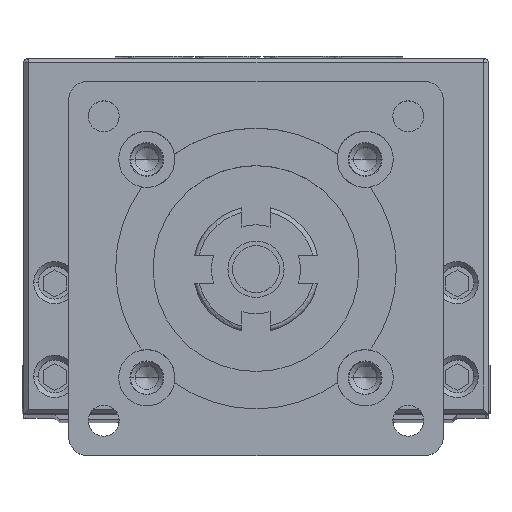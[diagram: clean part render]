
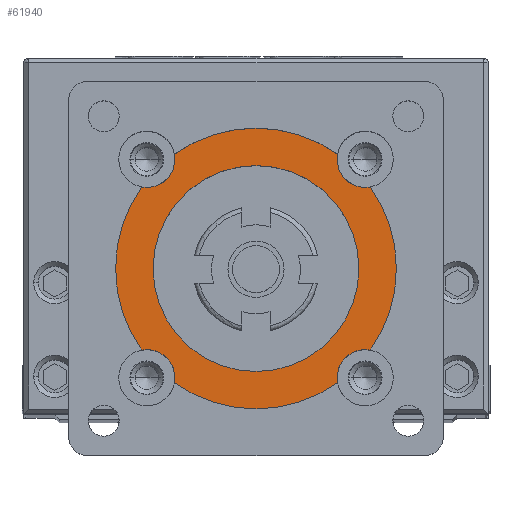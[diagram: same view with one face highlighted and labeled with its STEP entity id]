
A CAD part, top view. The second image highlights one B-rep face of the part: STEP entity #61940.
In plain terms, the highlighted planar face has unit normal (0, 0, 1).
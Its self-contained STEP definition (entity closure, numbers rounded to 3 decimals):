
#356 = DIRECTION ( 'NONE',  ( 1., 0., 0. ) ) ;
#691 = AXIS2_PLACEMENT_3D ( 'NONE', #15921, #27473, #20450 ) ;
#951 = FACE_OUTER_BOUND ( 'NONE', #11472, .T. ) ;
#1281 = AXIS2_PLACEMENT_3D ( 'NONE', #17163, #23790, #3087 ) ;
#1996 = AXIS2_PLACEMENT_3D ( 'NONE', #46358, #78438, #28631 ) ;
#2280 = AXIS2_PLACEMENT_3D ( 'NONE', #38774, #37946, #64257 ) ;
#2920 = ORIENTED_EDGE ( 'NONE', *, *, #71915, .F. ) ;
#3087 = DIRECTION ( 'NONE',  ( 1., 0., 0. ) ) ;
#4644 = CIRCLE ( 'NONE', #1996, 15. ) ;
#4823 = DIRECTION ( 'NONE',  ( 0., 0., 1. ) ) ;
#5115 = ORIENTED_EDGE ( 'NONE', *, *, #67935, .F. ) ;
#5198 = ORIENTED_EDGE ( 'NONE', *, *, #8246, .F. ) ;
#5347 = CARTESIAN_POINT ( 'NONE',  ( 11.667, -11.667, 5.5 ) ) ;
#5464 = ORIENTED_EDGE ( 'NONE', *, *, #18652, .F. ) ;
#6044 = ORIENTED_EDGE ( 'NONE', *, *, #11975, .T. ) ;
#6551 = DIRECTION ( 'NONE',  ( 0., 0., 1. ) ) ;
#7469 = CIRCLE ( 'NONE', #46993, 3. ) ;
#8246 = EDGE_CURVE ( 'NONE', #53247, #18965, #81499, .T. ) ;
#9300 = VERTEX_POINT ( 'NONE', #46508 ) ;
#10398 = VERTEX_POINT ( 'NONE', #26089 ) ;
#10543 = CARTESIAN_POINT ( 'NONE',  ( 0., 0., 5.5 ) ) ;
#11438 = PLANE ( 'NONE',  #58619 ) ;
#11472 = EDGE_LOOP ( 'NONE', ( #42892, #26475, #49056, #73115, #2920, #79901, #26339, #19982, #6044, #69314, #5198, #25028, #5115 ) ) ;
#11975 = EDGE_CURVE ( 'NONE', #73031, #29648, #48564, .T. ) ;
#14400 = CARTESIAN_POINT ( 'NONE',  ( -8.716, -12.208, 5.5 ) ) ;
#14553 = CARTESIAN_POINT ( 'NONE',  ( 11., 0., 5.5 ) ) ;
#15663 = EDGE_CURVE ( 'NONE', #31319, #23044, #24530, .T. ) ;
#15921 = CARTESIAN_POINT ( 'NONE',  ( 11.667, 11.667, 5.5 ) ) ;
#16741 = CARTESIAN_POINT ( 'NONE',  ( 8.716, -12.208, 5.5 ) ) ;
#17163 = CARTESIAN_POINT ( 'NONE',  ( 11.667, 11.667, 5.5 ) ) ;
#17513 = EDGE_CURVE ( 'NONE', #18965, #29648, #7469, .T. ) ;
#18401 = CIRCLE ( 'NONE', #34210, 15. ) ;
#18652 = EDGE_CURVE ( 'NONE', #51694, #72873, #52042, .T. ) ;
#18657 = CARTESIAN_POINT ( 'NONE',  ( 0., 0., 5.5 ) ) ;
#18965 = VERTEX_POINT ( 'NONE', #51039 ) ;
#19287 = AXIS2_PLACEMENT_3D ( 'NONE', #22340, #73775, #42946 ) ;
#19982 = ORIENTED_EDGE ( 'NONE', *, *, #72544, .F. ) ;
#20061 = DIRECTION ( 'NONE',  ( 1., 0., 0. ) ) ;
#20450 = DIRECTION ( 'NONE',  ( 1., 0., 0. ) ) ;
#20836 = CARTESIAN_POINT ( 'NONE',  ( 15., 0., 5.5 ) ) ;
#21517 = CIRCLE ( 'NONE', #51786, 3. ) ;
#21644 = AXIS2_PLACEMENT_3D ( 'NONE', #64358, #40507, #71331 ) ;
#22340 = CARTESIAN_POINT ( 'NONE',  ( 0., 0., 5.5 ) ) ;
#22378 = CIRCLE ( 'NONE', #81460, 3. ) ;
#23044 = VERTEX_POINT ( 'NONE', #27826 ) ;
#23336 = EDGE_CURVE ( 'NONE', #53247, #27644, #18401, .T. ) ;
#23790 = DIRECTION ( 'NONE',  ( 0., 0., 1. ) ) ;
#24530 = CIRCLE ( 'NONE', #691, 3. ) ;
#25028 = ORIENTED_EDGE ( 'NONE', *, *, #23336, .T. ) ;
#26089 = CARTESIAN_POINT ( 'NONE',  ( 12.208, -8.716, 5.5 ) ) ;
#26339 = ORIENTED_EDGE ( 'NONE', *, *, #27522, .F. ) ;
#26475 = ORIENTED_EDGE ( 'NONE', *, *, #61483, .T. ) ;
#26599 = CARTESIAN_POINT ( 'NONE',  ( 0., 0., 5.5 ) ) ;
#27086 = CARTESIAN_POINT ( 'NONE',  ( -11.667, -11.667, 5.5 ) ) ;
#27473 = DIRECTION ( 'NONE',  ( 0., 0., 1. ) ) ;
#27522 = EDGE_CURVE ( 'NONE', #54520, #65125, #21517, .T. ) ;
#27644 = VERTEX_POINT ( 'NONE', #16741 ) ;
#27826 = CARTESIAN_POINT ( 'NONE',  ( 12.208, 8.716, 5.5 ) ) ;
#28631 = DIRECTION ( 'NONE',  ( 1., 0., 0. ) ) ;
#29000 = VERTEX_POINT ( 'NONE', #29197 ) ;
#29197 = CARTESIAN_POINT ( 'NONE',  ( 8.716, 12.208, 5.5 ) ) ;
#29648 = VERTEX_POINT ( 'NONE', #36821 ) ;
#30704 = EDGE_CURVE ( 'NONE', #10398, #9300, #74720, .T. ) ;
#31319 = VERTEX_POINT ( 'NONE', #79220 ) ;
#32673 = CARTESIAN_POINT ( 'NONE',  ( 0., 0., 5.5 ) ) ;
#32768 = AXIS2_PLACEMENT_3D ( 'NONE', #18657, #55374, #73459 ) ;
#34210 = AXIS2_PLACEMENT_3D ( 'NONE', #10543, #60827, #48507 ) ;
#34860 = CIRCLE ( 'NONE', #21644, 15. ) ;
#34958 = CIRCLE ( 'NONE', #73055, 3. ) ;
#36660 = DIRECTION ( 'NONE',  ( 1., 0., 0. ) ) ;
#36821 = CARTESIAN_POINT ( 'NONE',  ( -12.208, -8.716, 5.5 ) ) ;
#37946 = DIRECTION ( 'NONE',  ( 0., 0., 1. ) ) ;
#38266 = DIRECTION ( 'NONE',  ( 1., 0., 0. ) ) ;
#38419 = DIRECTION ( 'NONE',  ( 1., 0., 0. ) ) ;
#38774 = CARTESIAN_POINT ( 'NONE',  ( 11.667, -11.667, 5.5 ) ) ;
#39503 = DIRECTION ( 'NONE',  ( 0., 0., 1. ) ) ;
#40273 = AXIS2_PLACEMENT_3D ( 'NONE', #63859, #6551, #56846 ) ;
#40494 = DIRECTION ( 'NONE',  ( 1., 0., 0. ) ) ;
#40507 = DIRECTION ( 'NONE',  ( 0., 0., 1. ) ) ;
#42440 = DIRECTION ( 'NONE',  ( 1., 0., 0. ) ) ;
#42892 = ORIENTED_EDGE ( 'NONE', *, *, #30704, .F. ) ;
#42946 = DIRECTION ( 'NONE',  ( 1., 0., 0. ) ) ;
#45801 = CARTESIAN_POINT ( 'NONE',  ( -11.667, -11.667, 5.5 ) ) ;
#46082 = AXIS2_PLACEMENT_3D ( 'NONE', #45801, #56495, #38419 ) ;
#46358 = CARTESIAN_POINT ( 'NONE',  ( 0., 0., 5.5 ) ) ;
#46508 = CARTESIAN_POINT ( 'NONE',  ( 8.667, -11.667, 5.5 ) ) ;
#46993 = AXIS2_PLACEMENT_3D ( 'NONE', #27086, #39503, #38266 ) ;
#48507 = DIRECTION ( 'NONE',  ( 1., 0., 0. ) ) ;
#48564 = CIRCLE ( 'NONE', #32768, 15. ) ;
#49056 = ORIENTED_EDGE ( 'NONE', *, *, #54135, .T. ) ;
#50330 = DIRECTION ( 'NONE',  ( 0., 0., 1. ) ) ;
#50933 = FACE_BOUND ( 'NONE', #59262, .T. ) ;
#51039 = CARTESIAN_POINT ( 'NONE',  ( -8.667, -11.667, 5.5 ) ) ;
#51157 = ORIENTED_EDGE ( 'NONE', *, *, #62250, .F. ) ;
#51694 = VERTEX_POINT ( 'NONE', #14553 ) ;
#51786 = AXIS2_PLACEMENT_3D ( 'NONE', #58336, #76103, #20061 ) ;
#52042 = CIRCLE ( 'NONE', #40273, 11. ) ;
#52671 = CIRCLE ( 'NONE', #1281, 3. ) ;
#53018 = CARTESIAN_POINT ( 'NONE',  ( -8.667, 11.667, 5.5 ) ) ;
#53247 = VERTEX_POINT ( 'NONE', #14400 ) ;
#53612 = CIRCLE ( 'NONE', #60165, 15. ) ;
#54135 = EDGE_CURVE ( 'NONE', #74206, #23044, #53612, .T. ) ;
#54520 = VERTEX_POINT ( 'NONE', #53018 ) ;
#55374 = DIRECTION ( 'NONE',  ( 0., 0., 1. ) ) ;
#56495 = DIRECTION ( 'NONE',  ( 0., 0., 1. ) ) ;
#56846 = DIRECTION ( 'NONE',  ( 1., 0., 0. ) ) ;
#57713 = DIRECTION ( 'NONE',  ( 0., 0., 1. ) ) ;
#58336 = CARTESIAN_POINT ( 'NONE',  ( -11.667, 11.667, 5.5 ) ) ;
#58619 = AXIS2_PLACEMENT_3D ( 'NONE', #26599, #80614, #36660 ) ;
#59262 = EDGE_LOOP ( 'NONE', ( #5464, #51157 ) ) ;
#60165 = AXIS2_PLACEMENT_3D ( 'NONE', #32673, #57713, #40494 ) ;
#60827 = DIRECTION ( 'NONE',  ( 0., 0., 1. ) ) ;
#61483 = EDGE_CURVE ( 'NONE', #10398, #74206, #34860, .T. ) ;
#61516 = CARTESIAN_POINT ( 'NONE',  ( -12.208, 8.716, 5.5 ) ) ;
#61940 = ADVANCED_FACE ( 'NONE', ( #50933, #951 ), #11438, .T. ) ;
#61984 = EDGE_CURVE ( 'NONE', #29000, #65125, #4644, .T. ) ;
#62250 = EDGE_CURVE ( 'NONE', #72873, #51694, #71909, .T. ) ;
#63859 = CARTESIAN_POINT ( 'NONE',  ( 0., 0., 5.5 ) ) ;
#64257 = DIRECTION ( 'NONE',  ( 1., 0., 0. ) ) ;
#64358 = CARTESIAN_POINT ( 'NONE',  ( 0., 0., 5.5 ) ) ;
#65125 = VERTEX_POINT ( 'NONE', #71943 ) ;
#67935 = EDGE_CURVE ( 'NONE', #9300, #27644, #34958, .T. ) ;
#69314 = ORIENTED_EDGE ( 'NONE', *, *, #17513, .F. ) ;
#71331 = DIRECTION ( 'NONE',  ( 1., 0., 0. ) ) ;
#71909 = CIRCLE ( 'NONE', #19287, 11. ) ;
#71915 = EDGE_CURVE ( 'NONE', #29000, #31319, #52671, .T. ) ;
#71943 = CARTESIAN_POINT ( 'NONE',  ( -8.716, 12.208, 5.5 ) ) ;
#72544 = EDGE_CURVE ( 'NONE', #73031, #54520, #22378, .T. ) ;
#72873 = VERTEX_POINT ( 'NONE', #79354 ) ;
#73031 = VERTEX_POINT ( 'NONE', #61516 ) ;
#73055 = AXIS2_PLACEMENT_3D ( 'NONE', #5347, #50330, #356 ) ;
#73115 = ORIENTED_EDGE ( 'NONE', *, *, #15663, .F. ) ;
#73459 = DIRECTION ( 'NONE',  ( 1., 0., 0. ) ) ;
#73679 = CARTESIAN_POINT ( 'NONE',  ( -11.667, 11.667, 5.5 ) ) ;
#73775 = DIRECTION ( 'NONE',  ( 0., 0., 1. ) ) ;
#74206 = VERTEX_POINT ( 'NONE', #20836 ) ;
#74720 = CIRCLE ( 'NONE', #2280, 3. ) ;
#76103 = DIRECTION ( 'NONE',  ( 0., 0., 1. ) ) ;
#78438 = DIRECTION ( 'NONE',  ( 0., 0., 1. ) ) ;
#79220 = CARTESIAN_POINT ( 'NONE',  ( 8.667, 11.667, 5.5 ) ) ;
#79354 = CARTESIAN_POINT ( 'NONE',  ( -11., 0., 5.5 ) ) ;
#79901 = ORIENTED_EDGE ( 'NONE', *, *, #61984, .T. ) ;
#80614 = DIRECTION ( 'NONE',  ( 0., 0., 1. ) ) ;
#81460 = AXIS2_PLACEMENT_3D ( 'NONE', #73679, #4823, #42440 ) ;
#81499 = CIRCLE ( 'NONE', #46082, 3. ) ;
